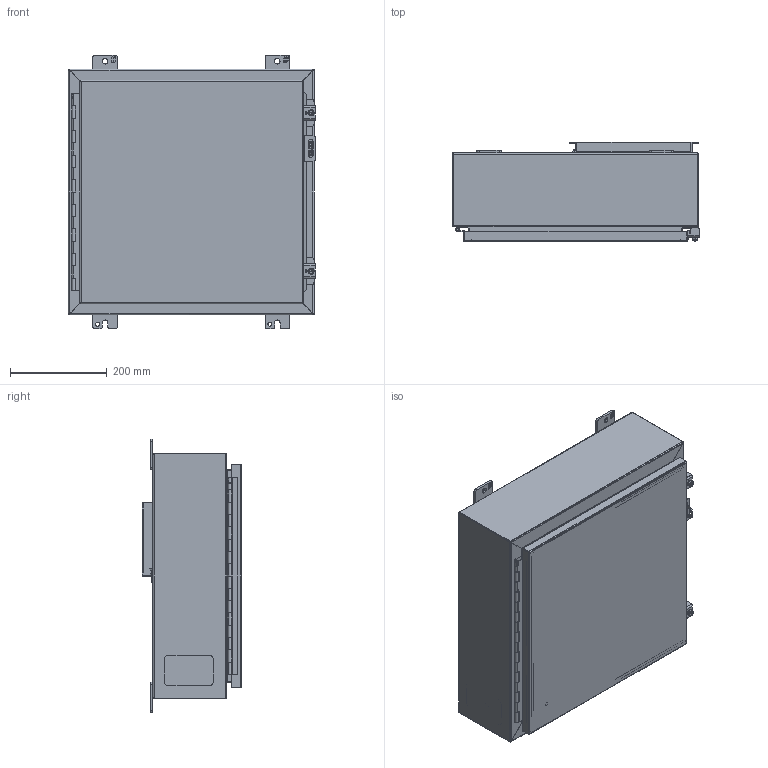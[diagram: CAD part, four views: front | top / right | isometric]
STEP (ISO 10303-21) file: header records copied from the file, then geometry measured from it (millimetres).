
FILE_DESCRIPTION(/* description */ ('Unknown'),/* implementation_level */ '2;1');
FILE_NAME(/* name */ '1418D6LP',/* time_stamp */ '2026-02-20T16:29:44-05:00',/* author */ ('Unknown'),/* organization */ ('Unknown'),/* preprocessor_version */ 'ST-DEVELOPER v18.104',/* originating_system */ 'Solid Edge',/* authorisation */ 'Unknown');
FILE_SCHEMA (('AUTOMOTIVE_DESIGN {1 0 10303 214 3 1 1}'));
Length unit declared in the file: millimetre
Products named in the file (30): 1418D6LP; STD26094; STD21878; COM42780; HNG10620-16B; COM40153-1; COM71780-7; COM40153-2; PNT11078; COM70219_oa_0; HNG10620-16C; COM48427; FET07710; AKT90223; SPR20265; SCC19011; WAF25035; COM42667; BUL10020; QLB30109; PKT99; HNG10620-16P; KIT90518; WAF25059; NTS166105; LAB30005; KIT90256; NTS165305; NTS16535
Assembly tree (40 placements, depth 3):
  1418D6LP
    STD26094  x4
    STD21878
    COM42780  x2
    HNG10620-16B
    COM40153-1
    COM71780-7
      COM40153-2
      PNT11078
      COM70219_oa_0
      HNG10620-16C
      COM71780-7
      STD21878
    COM48427
    FET07710  x4
    AKT90223  x2
      SPR20265
      SCC19011
      WAF25035
      COM42667
    BUL10020
    QLB30109
    PKT99
    HNG10620-16P
    KIT90518
      WAF25059
      NTS166105
      LAB30005
    KIT90256
      LAB30005
      NTS165305
      NTS16535
    PNT11078
Bounding box: 511.18 x 206.38 x 565.15 mm (x, y, z)
Volume: 2035105.6 mm3; surface area: 2163026.9 mm2
Topology: 34 solids, 35 shells, 1157 faces, 2931 edges, 1878 vertices
Faces by surface type: plane 770, cylinder 290, bspline 49, cone 26, torus 20, sphere 2
Full cylindrical faces by diameter (mm): 3.175 x1, 4.763 x1, 4.976 x1, 5.41 x2, 6.198 x2, 6.35 x3, 6.731 x2, 7.137 x2, 7.805 x1, 7.938 x4, 8.382 x4, 9.525 x4, 9.906 x2, 11.113 x4, 11.303 x1, 12.7 x2, 16.51 x4, 25.4 x1, 88.9 x1
Entity records: 28725 total; most frequent: CARTESIAN_POINT 8065, ORIENTED_EDGE 4112, DIRECTION 3887, EDGE_CURVE 2056, LINE 1393, VECTOR 1393, VERTEX_POINT 1321, AXIS2_PLACEMENT_3D 1247
